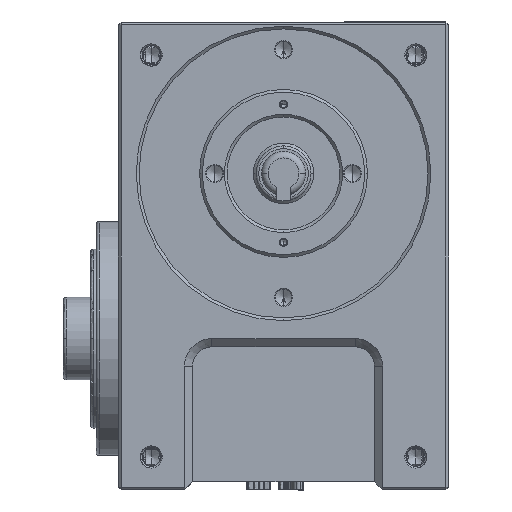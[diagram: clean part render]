
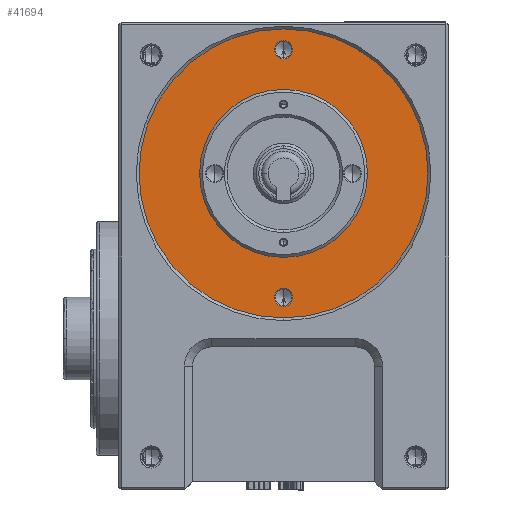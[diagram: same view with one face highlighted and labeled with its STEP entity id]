
A CAD part, left-side view. The second image highlights one B-rep face of the part: STEP entity #41694.
In plain terms, the highlighted planar face has unit normal (-1, 0, 0).
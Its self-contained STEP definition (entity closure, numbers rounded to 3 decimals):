
#2353 = DIRECTION ( 'NONE',  ( 0., 1., 0. ) ) ;
#7664 = AXIS2_PLACEMENT_3D ( 'NONE', #168436, #88419, #8412 ) ;
#8154 = AXIS2_PLACEMENT_3D ( 'NONE', #99497, #19464, #112910 ) ;
#8412 = DIRECTION ( 'NONE',  ( 0., 0., 1. ) ) ;
#14172 = VERTEX_POINT ( 'NONE', #108431 ) ;
#17099 = AXIS2_PLACEMENT_3D ( 'NONE', #41529, #135031, #54996 ) ;
#19464 = DIRECTION ( 'NONE',  ( -1., 0., 0. ) ) ;
#19653 = ORIENTED_EDGE ( 'NONE', *, *, #51264, .T. ) ;
#22463 = CARTESIAN_POINT ( 'NONE',  ( -54., 60., 62.5 ) ) ;
#22696 = ORIENTED_EDGE ( 'NONE', *, *, #156707, .T. ) ;
#25933 = EDGE_CURVE ( 'NONE', #169870, #164279, #134081, .T. ) ;
#26140 = CARTESIAN_POINT ( 'NONE',  ( -54., 60., 167.5 ) ) ;
#28927 = DIRECTION ( 'NONE',  ( 1., 0., 0. ) ) ;
#31016 = CIRCLE ( 'NONE', #8154, 52.5 ) ;
#41529 = CARTESIAN_POINT ( 'NONE',  ( -54., 60., 159.929 ) ) ;
#41694 = ADVANCED_FACE ( 'NONE', ( #98694, #94460, #63127, #125798 ), #60414, .T. ) ;
#44287 = EDGE_LOOP ( 'NONE', ( #19653, #107432 ) ) ;
#45372 = VERTEX_POINT ( 'NONE', #26140 ) ;
#45627 = CARTESIAN_POINT ( 'NONE',  ( -54., 63.25, 159.929 ) ) ;
#46970 = CARTESIAN_POINT ( 'NONE',  ( -54., 60., 115. ) ) ;
#50312 = CARTESIAN_POINT ( 'NONE',  ( -54., 60., 159.929 ) ) ;
#51264 = EDGE_CURVE ( 'NONE', #164279, #169870, #68278, .T. ) ;
#52756 = ORIENTED_EDGE ( 'NONE', *, *, #151323, .T. ) ;
#54996 = DIRECTION ( 'NONE',  ( 0., -1., 0. ) ) ;
#56949 = VERTEX_POINT ( 'NONE', #69523 ) ;
#60414 = PLANE ( 'NONE',  #7664 ) ;
#60439 = DIRECTION ( 'NONE',  ( 0., 0., 1. ) ) ;
#60768 = VERTEX_POINT ( 'NONE', #142525 ) ;
#62724 = DIRECTION ( 'NONE',  ( 1., 0., 0. ) ) ;
#63127 = FACE_BOUND ( 'NONE', #80924, .T. ) ;
#63735 = DIRECTION ( 'NONE',  ( 0., -1., 0. ) ) ;
#66904 = CIRCLE ( 'NONE', #75580, 3.25 ) ;
#68234 = CIRCLE ( 'NONE', #91561, 30.5 ) ;
#68278 = CIRCLE ( 'NONE', #17099, 3.25 ) ;
#69523 = CARTESIAN_POINT ( 'NONE',  ( -54., 90.5, 115. ) ) ;
#73033 = AXIS2_PLACEMENT_3D ( 'NONE', #50312, #143808, #63735 ) ;
#74178 = DIRECTION ( 'NONE',  ( 1., 0., 0. ) ) ;
#75580 = AXIS2_PLACEMENT_3D ( 'NONE', #108948, #28927, #122357 ) ;
#80924 = EDGE_LOOP ( 'NONE', ( #22696, #52756 ) ) ;
#82362 = DIRECTION ( 'NONE',  ( 1., 0., 0. ) ) ;
#88419 = DIRECTION ( 'NONE',  ( -1., 0., 0. ) ) ;
#91561 = AXIS2_PLACEMENT_3D ( 'NONE', #154187, #74178, #167647 ) ;
#94460 = FACE_BOUND ( 'NONE', #143914, .T. ) ;
#97617 = EDGE_CURVE ( 'NONE', #14172, #163385, #128709, .T. ) ;
#98694 = FACE_BOUND ( 'NONE', #44287, .T. ) ;
#99497 = CARTESIAN_POINT ( 'NONE',  ( -54., 60., 115. ) ) ;
#99732 = AXIS2_PLACEMENT_3D ( 'NONE', #46970, #140464, #60439 ) ;
#100115 = EDGE_LOOP ( 'NONE', ( #115302, #173393 ) ) ;
#101477 = ORIENTED_EDGE ( 'NONE', *, *, #97617, .T. ) ;
#106149 = CARTESIAN_POINT ( 'NONE',  ( -54., 60., 73.25 ) ) ;
#107432 = ORIENTED_EDGE ( 'NONE', *, *, #25933, .T. ) ;
#108431 = CARTESIAN_POINT ( 'NONE',  ( -54., 60., 66.75 ) ) ;
#108948 = CARTESIAN_POINT ( 'NONE',  ( -54., 60., 70. ) ) ;
#112493 = CIRCLE ( 'NONE', #122410, 30.5 ) ;
#112646 = CIRCLE ( 'NONE', #99732, 52.5 ) ;
#112910 = DIRECTION ( 'NONE',  ( 0., 0., 1. ) ) ;
#115156 = EDGE_CURVE ( 'NONE', #163385, #14172, #66904, .T. ) ;
#115302 = ORIENTED_EDGE ( 'NONE', *, *, #166486, .T. ) ;
#119055 = ORIENTED_EDGE ( 'NONE', *, *, #115156, .T. ) ;
#121614 = AXIS2_PLACEMENT_3D ( 'NONE', #142788, #62724, #156129 ) ;
#122357 = DIRECTION ( 'NONE',  ( 0., 0., 1. ) ) ;
#122410 = AXIS2_PLACEMENT_3D ( 'NONE', #162365, #82362, #2353 ) ;
#125798 = FACE_OUTER_BOUND ( 'NONE', #100115, .T. ) ;
#128709 = CIRCLE ( 'NONE', #121614, 3.25 ) ;
#129640 = EDGE_CURVE ( 'NONE', #138499, #45372, #112646, .T. ) ;
#134081 = CIRCLE ( 'NONE', #73033, 3.25 ) ;
#135031 = DIRECTION ( 'NONE',  ( 1., 0., 0. ) ) ;
#138499 = VERTEX_POINT ( 'NONE', #22463 ) ;
#140464 = DIRECTION ( 'NONE',  ( -1., 0., 0. ) ) ;
#142525 = CARTESIAN_POINT ( 'NONE',  ( -54., 29.5, 115. ) ) ;
#142788 = CARTESIAN_POINT ( 'NONE',  ( -54., 60., 70. ) ) ;
#143808 = DIRECTION ( 'NONE',  ( 1., 0., 0. ) ) ;
#143914 = EDGE_LOOP ( 'NONE', ( #119055, #101477 ) ) ;
#151323 = EDGE_CURVE ( 'NONE', #60768, #56949, #112493, .T. ) ;
#154187 = CARTESIAN_POINT ( 'NONE',  ( -54., 60., 115. ) ) ;
#156129 = DIRECTION ( 'NONE',  ( 0., 0., 1. ) ) ;
#156707 = EDGE_CURVE ( 'NONE', #56949, #60768, #68234, .T. ) ;
#162365 = CARTESIAN_POINT ( 'NONE',  ( -54., 60., 115. ) ) ;
#163385 = VERTEX_POINT ( 'NONE', #106149 ) ;
#164279 = VERTEX_POINT ( 'NONE', #169315 ) ;
#166486 = EDGE_CURVE ( 'NONE', #45372, #138499, #31016, .T. ) ;
#167647 = DIRECTION ( 'NONE',  ( 0., 1., 0. ) ) ;
#168436 = CARTESIAN_POINT ( 'NONE',  ( -54., 0., 0. ) ) ;
#169315 = CARTESIAN_POINT ( 'NONE',  ( -54., 56.75, 159.929 ) ) ;
#169870 = VERTEX_POINT ( 'NONE', #45627 ) ;
#173393 = ORIENTED_EDGE ( 'NONE', *, *, #129640, .T. ) ;
